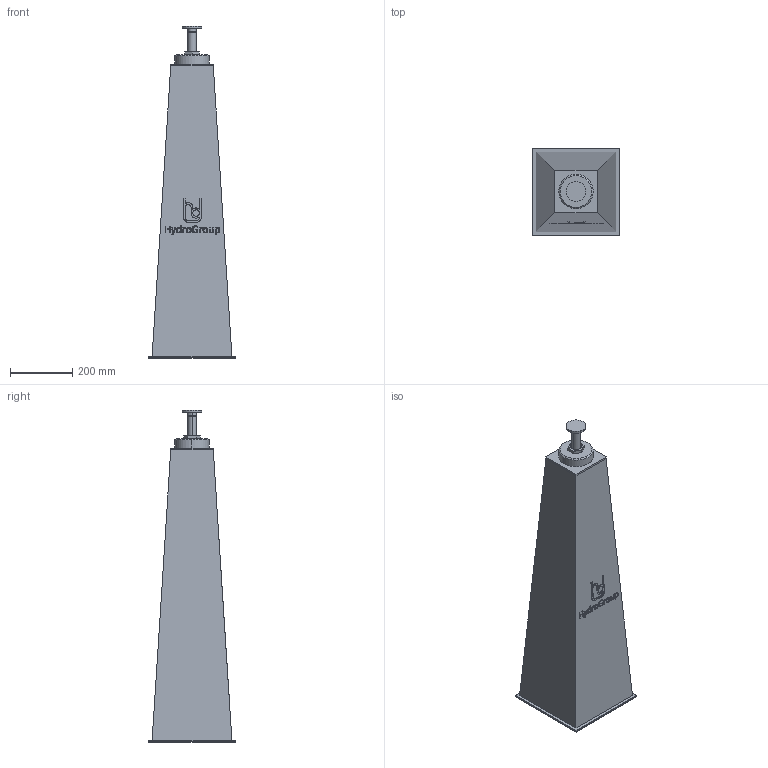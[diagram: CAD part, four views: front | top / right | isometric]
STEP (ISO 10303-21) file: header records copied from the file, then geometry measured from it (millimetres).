
FILE_DESCRIPTION(('STEP AP214'),'1');
FILE_NAME('RSRFE-III-05-V1.stp','2018-06-29T07:19:48',(' '),(' '),'Spatial InterOp 3D',' ',' ');
FILE_SCHEMA(('automotive_design'));
Length unit declared in the file: millimetre
Products named in the file (6): 1; 2; 3; 4; 5; 6
Bounding box: 276.01 x 276.01 x 1063 mm (x, y, z)
Volume: 37764411.5 mm3; surface area: 1068874.6 mm2
Topology: 6 solids, 6 shells, 216 faces, 529 edges, 344 vertices
Faces by surface type: plane 135, cylinder 33, extrusion 24, cone 20, torus 4
Entity records: 8692 total; most frequent: CARTESIAN_POINT 1769, ORIENTED_EDGE 1058, DIRECTION 983, EDGE_CURVE 529, VECTOR 399, LINE 375, VERTEX_POINT 344, AXIS2_PLACEMENT_3D 292
